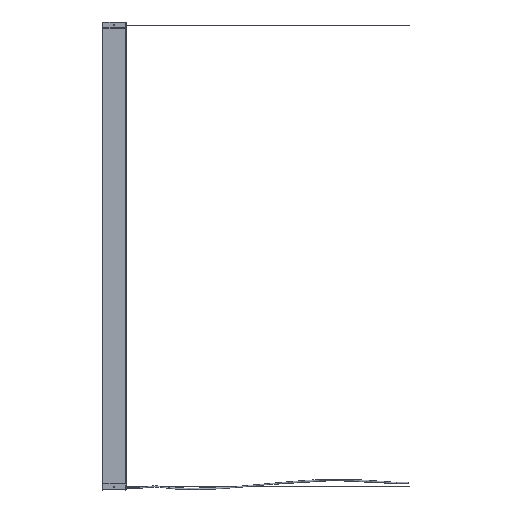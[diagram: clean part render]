
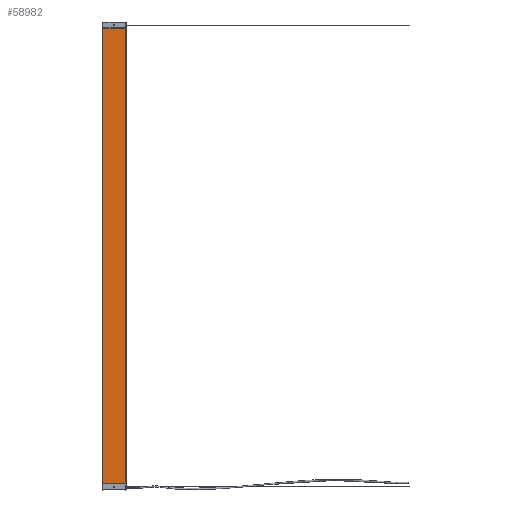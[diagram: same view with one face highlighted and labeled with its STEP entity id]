
A CAD part, top view. The second image highlights one B-rep face of the part: STEP entity #58982.
In plain terms, the highlighted planar face has unit normal (0, 0, 1) as drawn and (-1, 0, 0) by its records, which use the part's own axes.
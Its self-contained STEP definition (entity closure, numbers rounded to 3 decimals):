
#630 = VERTEX_POINT ( 'NONE', #10693 ) ;
#2907 = DIRECTION ( 'NONE',  ( 0., 1., 0. ) ) ;
#10693 = CARTESIAN_POINT ( 'NONE',  ( 0., -855., 43. ) ) ;
#21887 = EDGE_CURVE ( 'NONE', #104020, #163014, #197880, .T. ) ;
#26111 = CARTESIAN_POINT ( 'NONE',  ( 0., -855., 45. ) ) ;
#26950 = CARTESIAN_POINT ( 'NONE',  ( 0., 855., 45. ) ) ;
#34385 = ORIENTED_EDGE ( 'NONE', *, *, #90553, .T. ) ;
#43702 = LINE ( 'NONE', #26111, #175126 ) ;
#44169 = DIRECTION ( 'NONE',  ( 1., 0., 0. ) ) ;
#57971 = DIRECTION ( 'NONE',  ( 0., 0., 1. ) ) ;
#58982 = ADVANCED_FACE ( 'NONE', ( #68317 ), #180627, .F. ) ;
#68317 = FACE_OUTER_BOUND ( 'NONE', #169733, .T. ) ;
#74131 = ORIENTED_EDGE ( 'NONE', *, *, #21887, .T. ) ;
#89633 = VECTOR ( 'NONE', #2907, 1000. ) ;
#90553 = EDGE_CURVE ( 'NONE', #163014, #630, #43702, .T. ) ;
#91789 = CARTESIAN_POINT ( 'NONE',  ( 0., 855., 45. ) ) ;
#98777 = ORIENTED_EDGE ( 'NONE', *, *, #172582, .T. ) ;
#103208 = EDGE_CURVE ( 'NONE', #104020, #171398, #205761, .T. ) ;
#104020 = VERTEX_POINT ( 'NONE', #137845 ) ;
#114739 = VECTOR ( 'NONE', #57971, 1000. ) ;
#122896 = CARTESIAN_POINT ( 'NONE',  ( 0., 855., 43. ) ) ;
#137845 = CARTESIAN_POINT ( 'NONE',  ( 0., 855., -43. ) ) ;
#152407 = VECTOR ( 'NONE', #207314, 1000. ) ;
#154702 = CARTESIAN_POINT ( 'NONE',  ( 0., -855., -43. ) ) ;
#163014 = VERTEX_POINT ( 'NONE', #154702 ) ;
#163314 = DIRECTION ( 'NONE',  ( 0., 0., 1. ) ) ;
#164157 = DIRECTION ( 'NONE',  ( 0., 0., -1. ) ) ;
#169733 = EDGE_LOOP ( 'NONE', ( #34385, #98777, #171997, #74131 ) ) ;
#171398 = VERTEX_POINT ( 'NONE', #171567 ) ;
#171567 = CARTESIAN_POINT ( 'NONE',  ( 0., 855., 43. ) ) ;
#171997 = ORIENTED_EDGE ( 'NONE', *, *, #103208, .F. ) ;
#172582 = EDGE_CURVE ( 'NONE', #630, #171398, #220905, .T. ) ;
#175126 = VECTOR ( 'NONE', #163314, 1000. ) ;
#177928 = AXIS2_PLACEMENT_3D ( 'NONE', #26950, #44169, #164157 ) ;
#180627 = PLANE ( 'NONE',  #177928 ) ;
#190102 = CARTESIAN_POINT ( 'NONE',  ( 0., 855., -43. ) ) ;
#197880 = LINE ( 'NONE', #190102, #152407 ) ;
#205761 = LINE ( 'NONE', #91789, #114739 ) ;
#207314 = DIRECTION ( 'NONE',  ( 0., -1., 0. ) ) ;
#220905 = LINE ( 'NONE', #122896, #89633 ) ;
